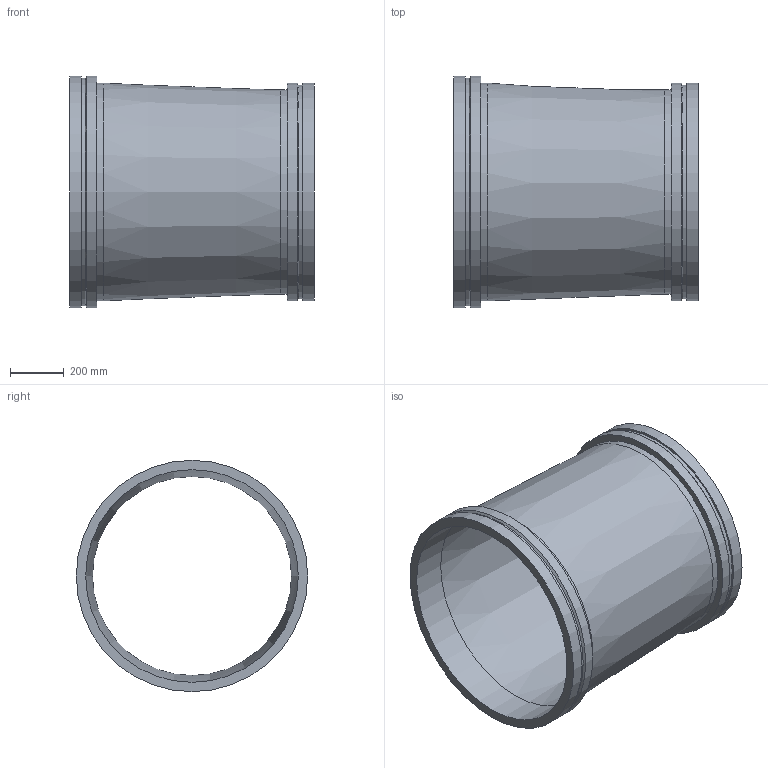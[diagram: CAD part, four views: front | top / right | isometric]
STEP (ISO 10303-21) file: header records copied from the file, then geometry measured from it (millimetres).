
FILE_DESCRIPTION(/* description */ ('VIC REDUCER CONCENTRIC No W50 VR','CAx-IF Rec.Pracs.---Representation and Presentation of Product Manufacturing Information (PMI)---4.0---2014-10-13'),/* implementation_level */ '2;1');
FILE_NAME(/* name */ 'C:\Users\kkamble\AppData\Roaming\Autodesk\ApplicationPlugins\Back Up\Victaulic_Vic-Ring_Reducer Concentric_No W50 VR (AGR)\Victaulic_Vic-Ring_Reducer Concentric_No W50 VR (AGR)_32.0x30.0 (800x750).stp',/* time_stamp */ '2020-09-10T11:46:55+05:00',/* author */ ('cps_temp'),/* organization */ ('Victaulic'),/* preprocessor_version */ 'ST-DEVELOPER v17.2',/* originating_system */ 'Autodesk Inventor 2019',/* authorisation */ '');
FILE_SCHEMA (('AP242_MANAGED_MODEL_BASED_3D_ENGINEERING_MIM_LF { 1 0 10303 442 1 1 4 }'));
Length unit declared in the file: inch
Products named in the file (1): W50 VR-32.0x30.0
Bounding box: 914.4 x 863.6 x 863.6 mm (x, y, z)
Volume: 33834908.8 mm3; surface area: 4863871 mm2
Topology: 1 solids, 1 shells, 20 faces, 54 edges, 40 vertices
Faces by surface type: cylinder 10, plane 6, cone 4
Full cylindrical faces by diameter (mm): 742.95 x1, 762 x1, 793.75 x1, 798.322 x1, 812.8 x3, 849.122 x1, 863.6 x2
Entity records: 830 total; most frequent: DIRECTION 162, CARTESIAN_POINT 132, ORIENTED_EDGE 108, AXIS2_PLACEMENT_3D 74, EDGE_CURVE 54, CIRCLE 40, VERTEX_POINT 40, EDGE_LOOP 26
